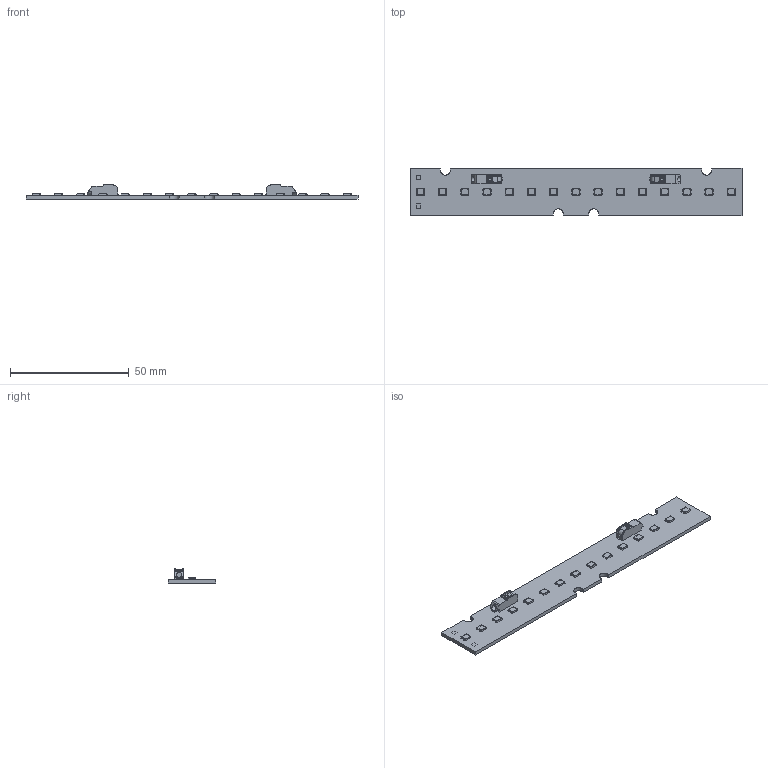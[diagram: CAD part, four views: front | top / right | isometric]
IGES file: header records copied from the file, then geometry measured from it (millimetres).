
Start section: SolidWorks IGES file using analytic representation for surfaces
Global section: file name: C:\Users\vuorinen_kari\Desktop\prj\LED_kosketussuojaus\led_module LS20-140.IGS; native system: SolidWorks 2014; preprocessor: SolidWorks 2014; author: vuorinen_kari; date: 180704.105050; units: millimetre
Bounding box: 139.8 x 20 x 5.95 mm (x, y, z)
Surface area: 7107.2 mm2 (no closed solid volume)
Topology: 0 solids, 0 shells, 1055 faces, 7635 edges, 7635 vertices
Faces by surface type: bspline 723, revolution 332
